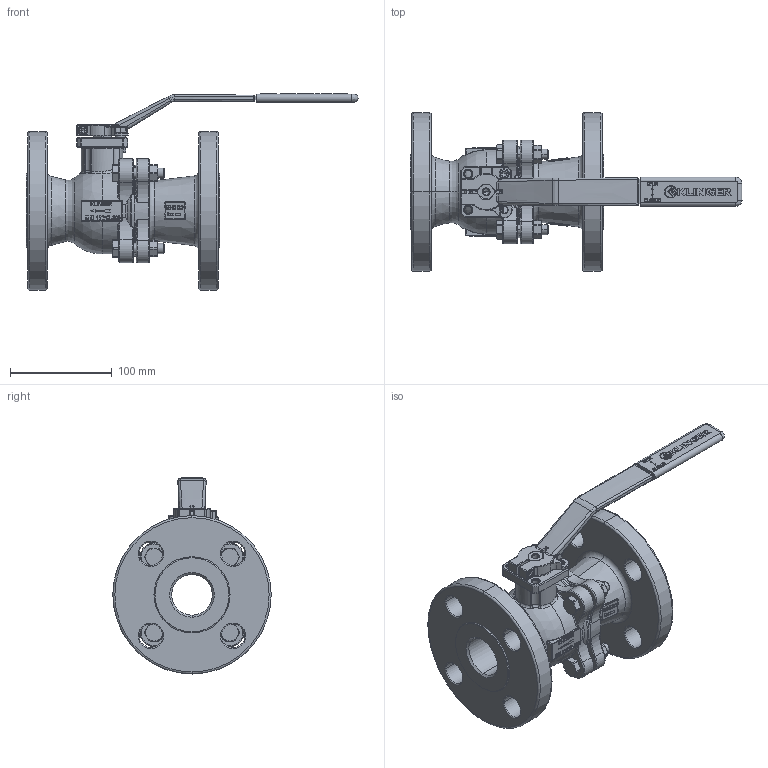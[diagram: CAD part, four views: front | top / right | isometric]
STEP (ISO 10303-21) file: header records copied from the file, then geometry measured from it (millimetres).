
FILE_DESCRIPTION((''),'2;1');
FILE_NAME('KHEFS-32VFS-32C300PKK','2015-08-11T',('mahrhauserh'),('RAND'),'PRO/ENGINEER BY PARAMETRIC TECHNOLOGY CORPORATION, 2013410','PRO/ENGINEER BY PARAMETRIC TECHNOLOGY CORPORATION, 2013410','');
FILE_SCHEMA(('CONFIG_CONTROL_DESIGN'));
Products named in the file (1): KHEFS-32VFS-32C300PKK
Bounding box: 327 x 156 x 193.05 mm (x, y, z)
Volume: 1258397 mm3; surface area: 259360.8 mm2
Topology: 1 solids, 1 shells, 3283 faces, 8539 edges, 5403 vertices
Faces by surface type: plane 2022, cylinder 480, torus 321, bspline 227, cone 200, sphere 33
Entity records: 122008 total; most frequent: CARTESIAN_POINT 42456, ORIENTED_EDGE 17066, DIRECTION 15784, EDGE_CURVE 8533, VECTOR 5892, LINE 5892, VERTEX_POINT 5403, AXIS2_PLACEMENT_3D 4946
